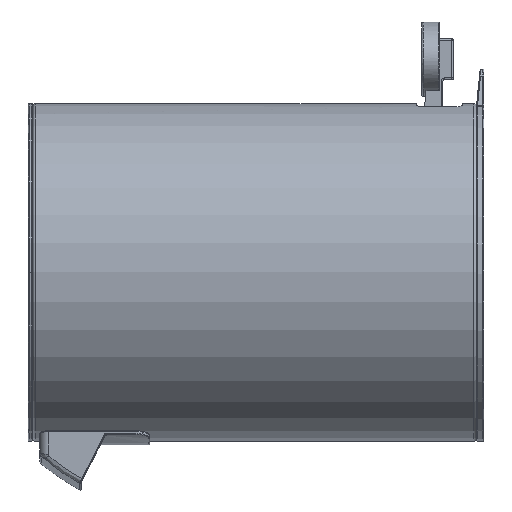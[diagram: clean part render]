
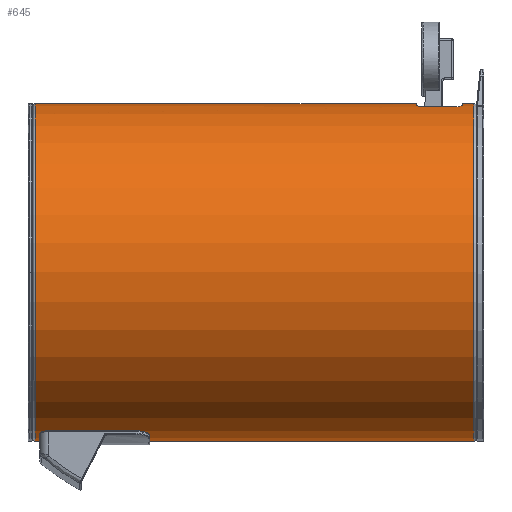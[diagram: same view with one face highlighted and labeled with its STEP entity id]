
A CAD part, left-side view. The second image highlights one B-rep face of the part: STEP entity #645.
In plain terms, the highlighted cylindrical face has radius 95 mm (diameter 190 mm), a partial arc.
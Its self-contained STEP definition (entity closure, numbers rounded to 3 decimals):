
#94=CARTESIAN_POINT('',(-18.,-221.04,93.279));
#95=CARTESIAN_POINT('',(-18.,-220.614,93.279));
#96=CARTESIAN_POINT('',(-17.892,-219.754,93.3));
#97=CARTESIAN_POINT('',(-17.381,-218.511,93.397));
#98=CARTESIAN_POINT('',(-16.583,-217.473,93.543));
#99=CARTESIAN_POINT('',(-15.55,-216.671,93.721));
#100=CARTESIAN_POINT('',(-14.3,-216.151,93.921));
#101=CARTESIAN_POINT('',(-13.432,-216.04,94.047));
#102=CARTESIAN_POINT('',(-13.,-216.04,94.106));
#122=CARTESIAN_POINT('',(-13.,-242.04,94.106));
#123=CARTESIAN_POINT('',(-13.432,-242.04,94.047));
#124=CARTESIAN_POINT('',(-14.301,-241.929,93.921));
#125=CARTESIAN_POINT('',(-15.548,-241.41,93.721));
#126=CARTESIAN_POINT('',(-16.581,-240.608,93.543));
#127=CARTESIAN_POINT('',(-17.38,-239.571,93.397));
#128=CARTESIAN_POINT('',(-17.893,-238.325,93.3));
#129=CARTESIAN_POINT('',(-18.,-237.466,93.279));
#130=CARTESIAN_POINT('',(-18.,-237.04,93.279));
#142=DIRECTION('',(0.,1.,0.));
#143=VECTOR('',#142,16.);
#144=CARTESIAN_POINT('',(-18.,-237.04,93.279));
#145=LINE('',#144,#143);
#146=CARTESIAN_POINT('',(0.,-242.04,0.));
#147=DIRECTION('',(0.,1.,0.));
#148=DIRECTION('',(-0.137,0.,0.991));
#149=AXIS2_PLACEMENT_3D('',#146,#147,#148);
#151=CARTESIAN_POINT('',(0.,-248.44,0.));
#152=DIRECTION('',(0.,1.,0.));
#153=DIRECTION('',(0.,0.,-1.));
#154=AXIS2_PLACEMENT_3D('',#151,#152,#153);
#156=CARTESIAN_POINT('',(0.,-1.5,0.));
#157=DIRECTION('',(0.,1.,0.));
#158=DIRECTION('',(0.,0.,-1.));
#159=AXIS2_PLACEMENT_3D('',#156,#157,#158);
#161=CARTESIAN_POINT('',(0.,-216.04,0.));
#162=DIRECTION('',(0.,1.,0.));
#163=DIRECTION('',(-0.137,0.,0.991));
#164=AXIS2_PLACEMENT_3D('',#161,#162,#163);
#180=DIRECTION('',(0.,1.,0.));
#181=VECTOR('',#180,214.54);
#182=CARTESIAN_POINT('',(0.,-216.04,95.));
#183=LINE('',#182,#181);
#189=DIRECTION('',(0.,1.,0.));
#190=VECTOR('',#189,246.94);
#191=CARTESIAN_POINT('',(0.,-248.44,-95.));
#192=LINE('',#191,#190);
#198=DIRECTION('',(0.,1.,0.));
#199=VECTOR('',#198,6.4);
#200=CARTESIAN_POINT('',(0.,-248.44,95.));
#201=LINE('',#200,#199);
#401=CARTESIAN_POINT('',(0.,-248.44,-95.));
#402=CARTESIAN_POINT('',(0.,-248.44,95.));
#403=VERTEX_POINT('',#401);
#404=VERTEX_POINT('',#402);
#413=CARTESIAN_POINT('',(0.,-1.5,-95.));
#414=CARTESIAN_POINT('',(0.,-1.5,95.));
#415=VERTEX_POINT('',#413);
#416=VERTEX_POINT('',#414);
#421=CARTESIAN_POINT('',(0.,-242.04,95.));
#422=VERTEX_POINT('',#421);
#423=CARTESIAN_POINT('',(0.,-216.04,95.));
#424=VERTEX_POINT('',#423);
#425=CARTESIAN_POINT('',(-18.,-221.04,93.279));
#427=VERTEX_POINT('',#425);
#429=CARTESIAN_POINT('',(-13.,-216.04,94.106));
#431=VERTEX_POINT('',#429);
#449=CARTESIAN_POINT('',(-13.,-242.04,94.106));
#451=VERTEX_POINT('',#449);
#453=CARTESIAN_POINT('',(-18.,-237.04,93.279));
#455=VERTEX_POINT('',#453);
#623=CARTESIAN_POINT('',(0.,-262.437,0.));
#624=DIRECTION('',(0.,1.,0.));
#625=DIRECTION('',(0.,0.,-1.));
#626=AXIS2_PLACEMENT_3D('',#623,#624,#625);
#627=CYLINDRICAL_SURFACE('',#626,95.);
#628=ORIENTED_EDGE('',*,*,#605,.F.);
#629=ORIENTED_EDGE('',*,*,#616,.F.);
#630=ORIENTED_EDGE('',*,*,#509,.T.);
#632=ORIENTED_EDGE('',*,*,#631,.F.);
#634=ORIENTED_EDGE('',*,*,#633,.F.);
#636=ORIENTED_EDGE('',*,*,#635,.T.);
#638=ORIENTED_EDGE('',*,*,#637,.T.);
#640=ORIENTED_EDGE('',*,*,#639,.F.);
#641=ORIENTED_EDGE('',*,*,#571,.F.);
#642=ORIENTED_EDGE('',*,*,#589,.F.);
#643=EDGE_LOOP('',(#628,#629,#630,#632,#634,#636,#638,#640,#641,#642));
#644=FACE_OUTER_BOUND('',#643,.F.);
#645=ADVANCED_FACE('',(#644),#627,.T.);
#103=B_SPLINE_CURVE_WITH_KNOTS('',3,(#94,#95,#96,#97,#98,#99,#100,#101,#102),
.UNSPECIFIED.,.F.,.F.,(4,1,1,1,1,1,4),(0.,0.167,0.333,
0.5,0.667,0.833,1.),.UNSPECIFIED.);
#131=B_SPLINE_CURVE_WITH_KNOTS('',3,(#122,#123,#124,#125,#126,#127,#128,#129,
#130),.UNSPECIFIED.,.F.,.F.,(4,1,1,1,1,1,4),(0.,0.167,
0.333,0.5,0.667,0.833,1.),
.UNSPECIFIED.);
#150=CIRCLE('',#149,95.);
#155=CIRCLE('',#154,95.);
#160=CIRCLE('',#159,95.);
#165=CIRCLE('',#164,95.);
#509=EDGE_CURVE('',#451,#422,#150,.T.);
#571=EDGE_CURVE('',#431,#424,#165,.T.);
#589=EDGE_CURVE('',#427,#431,#103,.T.);
#605=EDGE_CURVE('',#455,#427,#145,.T.);
#616=EDGE_CURVE('',#451,#455,#131,.T.);
#631=EDGE_CURVE('',#404,#422,#201,.T.);
#633=EDGE_CURVE('',#403,#404,#155,.T.);
#635=EDGE_CURVE('',#403,#415,#192,.T.);
#637=EDGE_CURVE('',#415,#416,#160,.T.);
#639=EDGE_CURVE('',#424,#416,#183,.T.);
